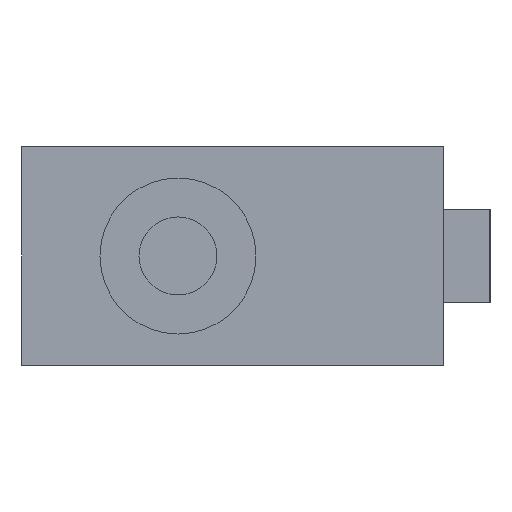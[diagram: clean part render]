
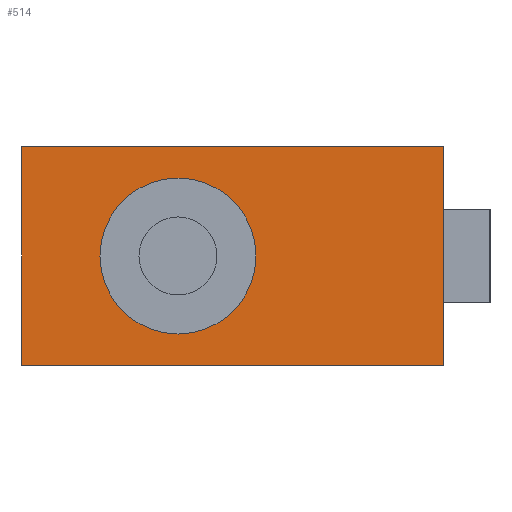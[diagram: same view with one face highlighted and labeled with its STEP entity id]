
A CAD part, left-side view. The second image highlights one B-rep face of the part: STEP entity #514.
In plain terms, the highlighted planar face has unit normal (-1, 0, 0).
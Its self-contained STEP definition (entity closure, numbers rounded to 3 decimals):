
#43=PLANE('',#573);
#74=FACE_OUTER_BOUND('',#111,.T.);
#111=EDGE_LOOP('',(#436,#437,#438,#439));
#153=LINE('',#814,#207);
#162=LINE('',#829,#216);
#163=LINE('',#832,#217);
#164=LINE('',#833,#218);
#207=VECTOR('',#668,10.);
#216=VECTOR('',#683,10.);
#217=VECTOR('',#686,10.);
#218=VECTOR('',#687,10.);
#274=VERTEX_POINT('',#811);
#275=VERTEX_POINT('',#813);
#278=VERTEX_POINT('',#827);
#279=VERTEX_POINT('',#831);
#327=EDGE_CURVE('',#275,#274,#153,.T.);
#336=EDGE_CURVE('',#274,#278,#162,.T.);
#337=EDGE_CURVE('',#278,#279,#163,.T.);
#338=EDGE_CURVE('',#279,#275,#164,.T.);
#436=ORIENTED_EDGE('',*,*,#336,.T.);
#437=ORIENTED_EDGE('',*,*,#337,.T.);
#438=ORIENTED_EDGE('',*,*,#338,.T.);
#439=ORIENTED_EDGE('',*,*,#327,.T.);
#514=ADVANCED_FACE('',(#74),#43,.F.);
#573=AXIS2_PLACEMENT_3D('',#830,#684,#685);
#668=DIRECTION('',(0.,-1.,0.));
#683=DIRECTION('',(0.,0.,1.));
#684=DIRECTION('center_axis',(1.,0.,0.));
#685=DIRECTION('ref_axis',(0.,1.,0.));
#686=DIRECTION('',(0.,1.,0.));
#687=DIRECTION('',(0.,0.,-1.));
#811=CARTESIAN_POINT('',(0.,-17.,-7.));
#813=CARTESIAN_POINT('',(0.,10.,-7.));
#814=CARTESIAN_POINT('',(0.,10.,-7.));
#827=CARTESIAN_POINT('',(0.,-17.,7.));
#829=CARTESIAN_POINT('',(0.,-17.,0.));
#830=CARTESIAN_POINT('Origin',(0.,-5.,0.));
#831=CARTESIAN_POINT('',(0.,10.,7.));
#832=CARTESIAN_POINT('',(0.,-20.,7.));
#833=CARTESIAN_POINT('',(0.,10.,7.));
